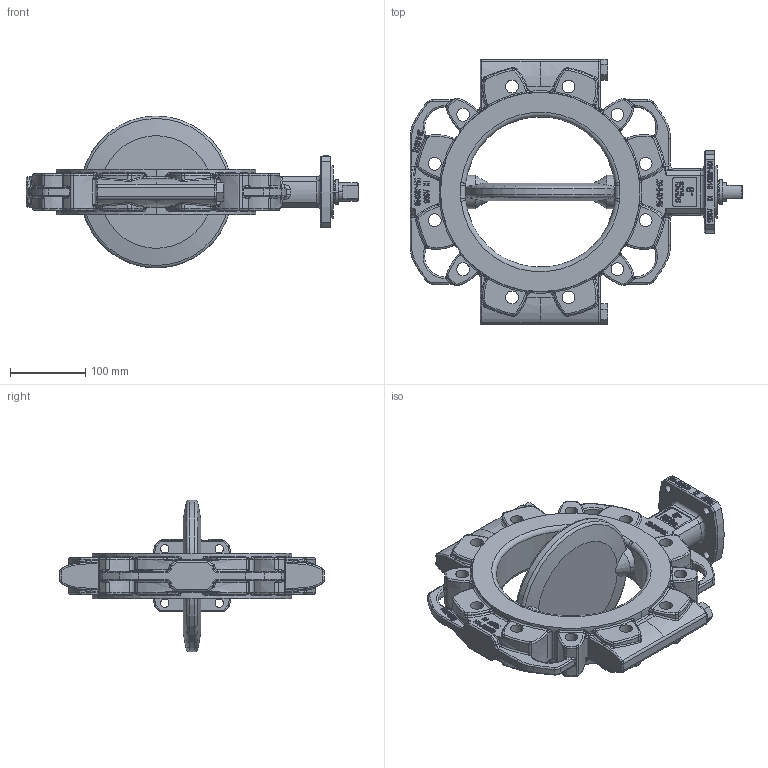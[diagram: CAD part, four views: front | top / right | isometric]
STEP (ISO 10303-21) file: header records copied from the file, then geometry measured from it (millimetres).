
FILE_DESCRIPTION((''),'2;1');
FILE_NAME('9520-00-5104_A_SW0002','2013-09-18T',('smarkstein'),(''),'PRO/ENGINEER BY PARAMETRIC TECHNOLOGY CORPORATION, 2011040','PRO/ENGINEER BY PARAMETRIC TECHNOLOGY CORPORATION, 2011040','');
FILE_SCHEMA(('CONFIG_CONTROL_DESIGN'));
Products named in the file (1): 9520-00-5104_A_SW0002
Bounding box: 441 x 352.71 x 201.85 mm (x, y, z)
Volume: 3727614.5 mm3; surface area: 377037 mm2
Topology: 1 solids, 2 shells, 3357 faces, 9080 edges, 5847 vertices
Faces by surface type: plane 2399, torus 312, cylinder 284, bspline 280, extrusion 52, cone 28, sphere 2
Entity records: 118437 total; most frequent: CARTESIAN_POINT 35515, ORIENTED_EDGE 18156, DIRECTION 15764, EDGE_CURVE 9078, VECTOR 7066, LINE 7014, VERTEX_POINT 5847, AXIS2_PLACEMENT_3D 4349
